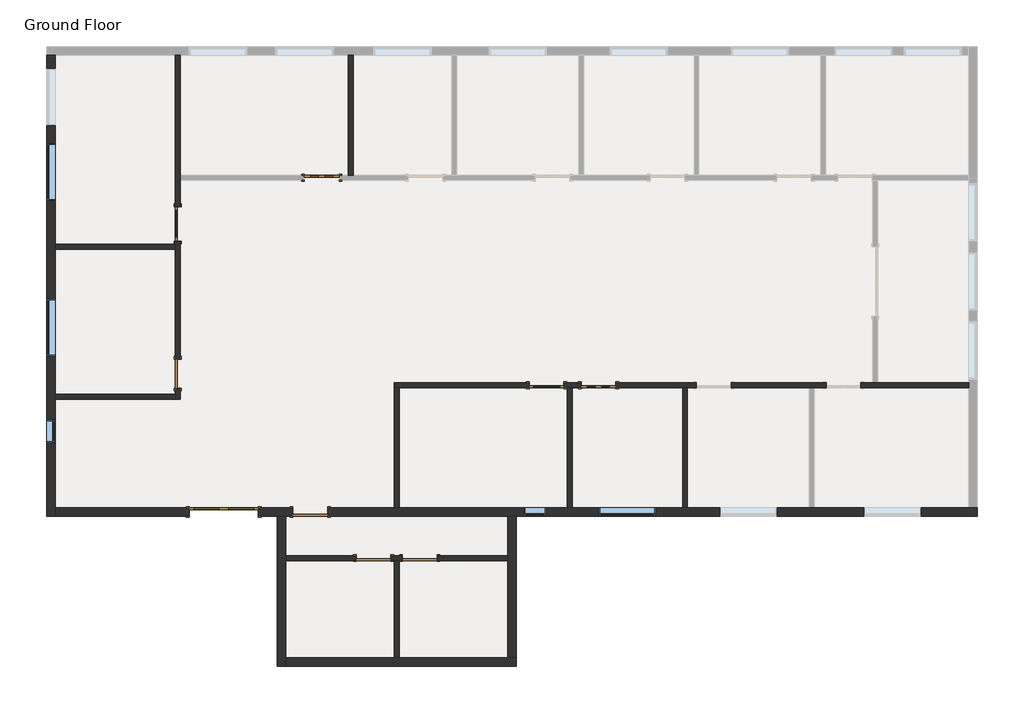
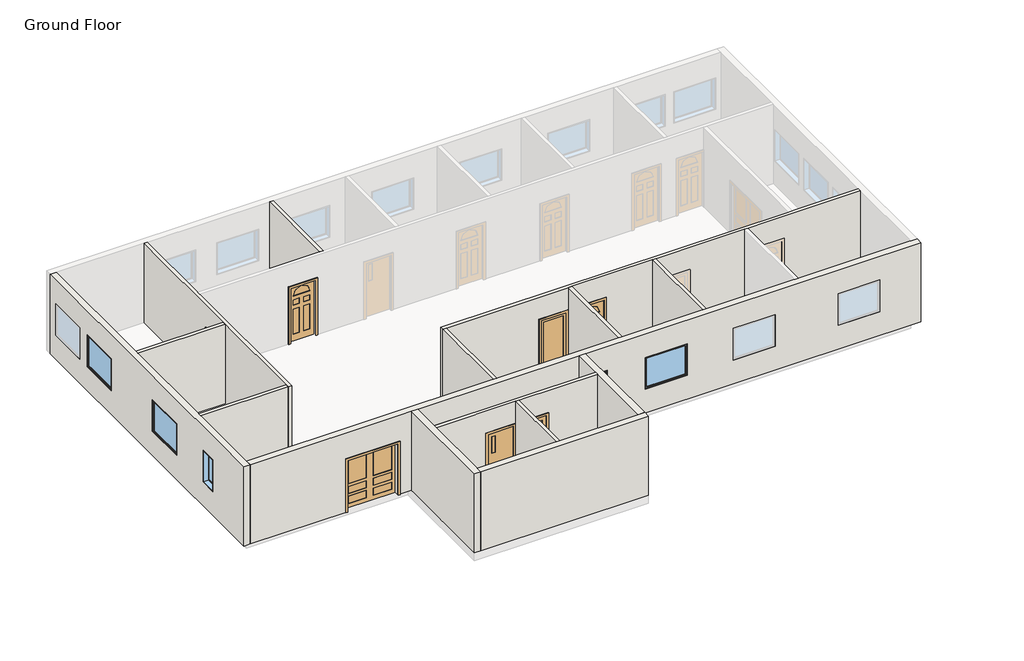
# One storey, part 1 of 2: 15 walls, 9 doors, 5 windows.
"""IFC4 building model written with IfcOpenShell, lengths in millimetres."""

from ifc_helpers import new_model, si_unit, origin, origin_with_axes, place, context, project, spatial, polyline, outline, extrude, faceted_brep, transform, mapped, element, save
from components import door_5adec8b9, door_2e3b4da2, door_e36758a9, door_e12cc5d4, door_a570ce24, door_98659c12, door_df34b78b, window_c82808a1, fixed_60_x_48_145d3b12

model = new_model("IFC4")

# Units and contexts
model_context = context("Model", 3, world=origin())
ifc_project = project(units=[si_unit("LENGTHUNIT", "METRE", prefix="MILLI")], contexts=[model_context])

# Site, building, storey
site = spatial("IfcSite", under=ifc_project)
building = spatial("IfcBuilding", under=site)
storey = spatial("IfcBuildingStorey", under=building, Name="Ground Floor", Elevation=0.0)

# Doors
placement = place(None, origin())
door_shape = door_5adec8b9(model_context)
element("IfcDoor", 1, ObjectType="Double-Panel 1 : 72\" x 78\"", at=placement, inside=storey, context=model_context, shape_type="MappedRepresentation", body=[
    mapped(door_shape, transform((-13229.3393951, -10747.2833183, 0.0), x_axis=(1.0, 0.0, 0.0), y_axis=(0.0, 1.0, 0.0), z_axis=(0.0, 0.0, 1.0))),
])
door_2_shape = door_2e3b4da2(model_context)
element("IfcDoor", 2, ObjectType="Single-Decorative 2 : 36\" x 84\"", at=placement, inside=storey, context=model_context, shape_type="MappedRepresentation", body=[
    mapped(door_2_shape, transform((-10638.5393951, -1908.0833183, 0.0), x_axis=(1.0, 0.0, 0.0), y_axis=(0.0, 1.0, 0.0), z_axis=(0.0, 0.0, 1.0))),
])
element("IfcDoor", 3, ObjectType="Single-Decorative 2 : 36\" x 84\"", at=placement, inside=storey, context=model_context, shape_type="MappedRepresentation", body=[
    mapped(door_2_shape, transform((-3323.3393951, -7394.4833183, 0.0), x_axis=(-1.0, 0.0, 0.0), y_axis=(0.0, -1.0, 0.0), z_axis=(0.0, 0.0, 1.0))),
])
door_3_shape = door_e36758a9(model_context)
element("IfcDoor", 4, ObjectType="Single-Flush : 30\" x 84\"", at=placement, inside=storey, context=model_context, shape_type="MappedRepresentation", body=[
    mapped(door_3_shape, transform((-14448.5393951, -7089.6833183, 0.0), x_axis=(0.0, -1.0, 0.0), y_axis=(1.0, 0.0, 0.0), z_axis=(0.0, 0.0, 1.0))),
])
door_4_shape = door_e12cc5d4(model_context)
element("IfcDoor", 5, ObjectType="Single-Flush Vision : 36\" x 84\"", at=placement, inside=storey, context=model_context, shape_type="MappedRepresentation", body=[
    mapped(door_4_shape, transform((-8047.7393951, -11966.4833183, 0.0), x_axis=(-1.0, 0.0, 0.0), y_axis=(0.0, -1.0, 0.0), z_axis=(0.0, 0.0, 1.0))),
])
door_5_shape = door_a570ce24(model_context)
element("IfcDoor", 6, ObjectType="Single-Flush Vision : 36\" x 84\"", at=placement, inside=storey, context=model_context, shape_type="MappedRepresentation", body=[
    mapped(door_5_shape, transform((-10943.3393951, -10747.2833183, 0.0), x_axis=(-1.0, 0.0, 0.0), y_axis=(0.0, -1.0, 0.0), z_axis=(0.0, 0.0, 1.0))),
])
door_6_shape = door_98659c12(model_context)
element("IfcDoor", 7, ObjectType="Single-Flush Vision : 36\" x 84\"", at=placement, inside=storey, context=model_context, shape_type="MappedRepresentation", body=[
    mapped(door_6_shape, transform((-9266.9393951, -11966.4833183, 0.0), x_axis=(1.0, 0.0, 0.0), y_axis=(0.0, 1.0, 0.0), z_axis=(0.0, 0.0, 1.0))),
])
door_7_shape = door_df34b78b(model_context)
element("IfcDoor", 8, ObjectType="Single-Glass 1 : 36\" x 84\"", at=placement, inside=storey, context=model_context, shape_type="MappedRepresentation", body=[
    mapped(door_7_shape, transform((-14448.5393951, -3127.2833183, 0.0), x_axis=(0.0, -1.0, 0.0), y_axis=(1.0, 0.0, 0.0), z_axis=(0.0, 0.0, 1.0))),
])
element("IfcDoor", 9, ObjectType="Single-Glass 1 : 36\" x 84\"", at=placement, inside=storey, context=model_context, shape_type="MappedRepresentation", body=[
    mapped(door_7_shape, transform((-4694.9393951, -7394.4833183, 0.0), x_axis=(1.0, 0.0, 0.0), y_axis=(0.0, 1.0, 0.0), z_axis=(0.0, 0.0, 1.0))),
])

# Walls
element("IfcWall", 10, ObjectType="Generic - 5\"", at=placement, inside=storey, context=model_context, shape_type="Brep", body=[
    faceted_brep([(-14512.0393951, -3584.4833183, 2133.6), (-14512.0393951, -3584.4833183, 0.0), (-14512.0393951, -3673.3833183, 0.0), (-14512.0393951, -3800.3833183, 0.0), (-14512.0393951, -6708.6833183, 0.0), (-14512.0393951, -6708.6833183, 2133.6), (-14512.0393951, -7470.6833183, 2133.6), (-14512.0393951, -7470.6833183, 0.0), (-14512.0393951, -7635.7833183, 0.0), (-14512.0393951, -7762.7833183, 0.0), (-14512.0393951, -7762.7833183, 3048.0), (-14512.0393951, -7635.7833183, 3048.0), (-14512.0393951, -3800.3833183, 3048.0), (-14512.0393951, -3673.3833183, 3048.0), (-14512.0393951, 1330.4166817, 3048.0), (-14512.0393951, 1330.4166817, 0.0), (-14512.0393951, -2670.0833183, 0.0), (-14512.0393951, -2670.0833183, 2133.6), (-14385.0393951, -6708.6833183, 0.0), (-14385.0393951, -3584.4833183, 0.0), (-14385.0393951, -3584.4833183, 2133.6), (-14385.0393951, -2670.0833183, 2133.6), (-14385.0393951, -2670.0833183, 0.0), (-14385.0393951, -1971.5833183, 0.0), (-14385.0393951, -1844.5833183, 0.0), (-14385.0393951, 1330.4166817, 0.0), (-14385.0393951, 1330.4166817, 3048.0), (-14385.0393951, -1844.5833183, 3048.0), (-14385.0393951, -1971.5833183, 3048.0), (-14385.0393951, -7762.7833183, 3048.0), (-14385.0393951, -7762.7833183, 0.0), (-14385.0393951, -7470.6833183, 0.0), (-14385.0393951, -7470.6833183, 2133.6), (-14385.0393951, -6708.6833183, 2133.6)], [[[0, 1, 2, 3, 4, 5, 6, 7, 8, 9, 10, 11, 12, 13, 14, 15, 16, 17]], [[18, 19, 20, 21, 22, 23, 24, 25, 26, 27, 28, 29, 30, 31, 32, 33]], [[9, 8, 7, 31, 30]], [[16, 15, 25, 24, 23, 22]], [[4, 3, 2, 1, 19, 18]], [[14, 13, 12, 11, 10, 29, 28, 27, 26]], [[15, 14, 26, 25]], [[10, 9, 30, 29]], [[32, 31, 7, 6]], [[33, 32, 6, 5]], [[18, 33, 5, 4]], [[20, 19, 1, 0]], [[21, 20, 0, 17]], [[22, 21, 17, 16]]]),
])
element("IfcWall", 11, ObjectType="Generic - 5\"", at=placement, inside=storey, context=model_context, shape_type="SweptSolid", body=[
    extrude(outline(polyline([(-17687.0393951, -7635.7833183), (-14512.0393951, -7635.7833183), (-14512.0393951, -7762.7833183), (-17687.0393951, -7762.7833183), (-17687.0393951, -7635.7833183)])), origin_with_axes(), (0.0, 0.0, 1.0), 3048.0),
])
element("IfcWall", 12, ObjectType="Generic - 5\"", at=placement, inside=storey, context=model_context, shape_type="Brep", body=[
    faceted_brep([(-3780.5393951, -7330.9833183, 0.0), (-4237.7393951, -7330.9833183, 0.0), (-4237.7393951, -7330.9833183, 2133.6), (-5152.1393951, -7330.9833183, 2133.6), (-5152.1393951, -7330.9833183, 0.0), (-8720.8393951, -7330.9833183, 0.0), (-8720.8393951, -7330.9833183, 3048.0), (3928.3606049, -7330.9833183, 3048.0), (4055.3606049, -7330.9833183, 3048.0), (6468.3606049, -7330.9833183, 3048.0), (6468.3606049, -7330.9833183, 0.0), (4055.3606049, -7330.9833183, 0.0), (3928.3606049, -7330.9833183, 0.0), (3610.8606049, -7330.9833183, 0.0), (3610.8606049, -7330.9833183, 2133.6), (2696.4606049, -7330.9833183, 2133.6), (2696.4606049, -7330.9833183, 0.0), (181.8606049, -7330.9833183, 0.0), (181.8606049, -7330.9833183, 2133.6), (-732.5393951, -7330.9833183, 2133.6), (-732.5393951, -7330.9833183, 0.0), (-2866.1393951, -7330.9833183, 0.0), (-2866.1393951, -7330.9833183, 2133.6), (-3780.5393951, -7330.9833183, 2133.6), (-4237.7393951, -7457.9833183, 2133.6), (-4237.7393951, -7457.9833183, 0.0), (-4148.8393951, -7457.9833183, 0.0), (-4021.8393951, -7457.9833183, 0.0), (-3780.5393951, -7457.9833183, 0.0), (-3780.5393951, -7457.9833183, 2133.6), (-2866.1393951, -7457.9833183, 2133.6), (-2866.1393951, -7457.9833183, 0.0), (-1100.8393951, -7457.9833183, 0.0), (-973.8393951, -7457.9833183, 0.0), (-732.5393951, -7457.9833183, 0.0), (-732.5393951, -7457.9833183, 2133.6), (181.8606049, -7457.9833183, 2133.6), (181.8606049, -7457.9833183, 0.0), (2251.9606049, -7457.9833183, 0.0), (2378.9606049, -7457.9833183, 0.0), (2696.4606049, -7457.9833183, 0.0), (2696.4606049, -7457.9833183, 2133.6), (3610.8606049, -7457.9833183, 2133.6), (3610.8606049, -7457.9833183, 0.0), (6468.3606049, -7457.9833183, 0.0), (6468.3606049, -7457.9833183, 3048.0), (2378.9606049, -7457.9833183, 3048.0), (2251.9606049, -7457.9833183, 3048.0), (-973.8393951, -7457.9833183, 3048.0), (-1100.8393951, -7457.9833183, 3048.0), (-4021.8393951, -7457.9833183, 3048.0), (-4148.8393951, -7457.9833183, 3048.0), (-8593.8393951, -7457.9833183, 3048.0), (-8720.8393951, -7457.9833183, 3048.0), (-8720.8393951, -7457.9833183, 0.0), (-8593.8393951, -7457.9833183, 0.0), (-5152.1393951, -7457.9833183, 0.0), (-5152.1393951, -7457.9833183, 2133.6)], [[[0, 1, 2, 3, 4, 5, 6, 7, 8, 9, 10, 11, 12, 13, 14, 15, 16, 17, 18, 19, 20, 21, 22, 23]], [[24, 25, 26, 27, 28, 29, 30, 31, 32, 33, 34, 35, 36, 37, 38, 39, 40, 41, 42, 43, 44, 45, 46, 47, 48, 49, 50, 51, 52, 53, 54, 55, 56, 57]], [[17, 16, 40, 39, 38, 37]], [[13, 12, 11, 10, 44, 43]], [[21, 20, 34, 33, 32, 31]], [[56, 55, 54, 5, 4]], [[28, 27, 26, 25, 1, 0]], [[9, 8, 7, 6, 53, 52, 51, 50, 49, 48, 47, 46, 45]], [[10, 9, 45, 44]], [[6, 5, 54, 53]], [[35, 34, 20, 19]], [[36, 35, 19, 18]], [[37, 36, 18, 17]], [[41, 40, 16, 15]], [[42, 41, 15, 14]], [[43, 42, 14, 13]], [[29, 28, 0, 23]], [[30, 29, 23, 22]], [[31, 30, 22, 21]], [[2, 1, 25, 24]], [[3, 2, 24, 57]], [[4, 3, 57, 56]]]),
])
element("IfcWall", 13, ObjectType="Generic - 5\"", at=placement, inside=storey, context=model_context, shape_type="SweptSolid", body=[
    extrude(outline(polyline([(-8720.8393951, -10632.9833183), (-8720.8393951, -7457.9833183), (-8593.8393951, -7457.9833183), (-8593.8393951, -10632.9833183), (-8720.8393951, -10632.9833183)])), origin_with_axes(), (0.0, 0.0, 1.0), 3048.0),
])
element("IfcWall", 14, ObjectType="Generic - 5\"", at=placement, inside=storey, context=model_context, shape_type="SweptSolid", body=[
    extrude(outline(polyline([(-14512.0393951, -3800.3833183), (-17687.0393951, -3800.3833183), (-17687.0393951, -3673.3833183), (-14512.0393951, -3673.3833183), (-14512.0393951, -3800.3833183)])), origin_with_axes(), (0.0, 0.0, 1.0), 3048.0),
])
element("IfcWall", 15, ObjectType="Generic - 5\"", at=placement, inside=storey, context=model_context, shape_type="SweptSolid", body=[
    extrude(outline(polyline([(-9940.0393951, -1844.5833183), (-9940.0393951, 1330.4166817), (-9813.0393951, 1330.4166817), (-9813.0393951, -1844.5833183), (-9940.0393951, -1844.5833183)])), origin_with_axes(), (0.0, 0.0, 1.0), 3048.0),
])
element("IfcWall", 16, ObjectType="Generic - 5\"", at=placement, inside=storey, context=model_context, shape_type="SweptSolid", body=[
    extrude(outline(polyline([(-973.8393951, -7457.9833183), (-973.8393951, -10632.9833183), (-1100.8393951, -10632.9833183), (-1100.8393951, -7457.9833183), (-973.8393951, -7457.9833183)])), origin_with_axes(), (0.0, 0.0, 1.0), 3048.0),
])
element("IfcWall", 17, ObjectType="Generic - 5\"", at=placement, inside=storey, context=model_context, shape_type="SweptSolid", body=[
    extrude(outline(polyline([(-4021.8393951, -7457.9833183), (-4021.8393951, -10632.9833183), (-4148.8393951, -10632.9833183), (-4148.8393951, -7457.9833183), (-4021.8393951, -7457.9833183)])), origin_with_axes(), (0.0, 0.0, 1.0), 3048.0),
])
element("IfcWall", 18, ObjectType="Generic - 5\"", at=placement, inside=storey, context=model_context, shape_type="Brep", body=[
    faceted_brep([(-8809.7393951, -12029.9833183, 2133.6), (-8809.7393951, -12029.9833183, 0.0), (-8720.8393951, -12029.9833183, 0.0), (-8593.8393951, -12029.9833183, 0.0), (-8504.9393951, -12029.9833183, 0.0), (-8504.9393951, -12029.9833183, 2133.6), (-7590.5393951, -12029.9833183, 2133.6), (-7590.5393951, -12029.9833183, 0.0), (-5723.6393951, -12029.9833183, 0.0), (-5723.6393951, -12029.9833183, 3048.0), (-8593.8393951, -12029.9833183, 3048.0), (-8720.8393951, -12029.9833183, 3048.0), (-11591.0393951, -12029.9833183, 3048.0), (-11591.0393951, -12029.9833183, 0.0), (-9724.1393951, -12029.9833183, 0.0), (-9724.1393951, -12029.9833183, 2133.6), (-8504.9393951, -11902.9833183, 0.0), (-8809.7393951, -11902.9833183, 0.0), (-8809.7393951, -11902.9833183, 2133.6), (-9724.1393951, -11902.9833183, 2133.6), (-9724.1393951, -11902.9833183, 0.0), (-11591.0393951, -11902.9833183, 0.0), (-11591.0393951, -11902.9833183, 3048.0), (-5723.6393951, -11902.9833183, 3048.0), (-5723.6393951, -11902.9833183, 0.0), (-7590.5393951, -11902.9833183, 0.0), (-7590.5393951, -11902.9833183, 2133.6), (-8504.9393951, -11902.9833183, 2133.6)], [[[0, 1, 2, 3, 4, 5, 6, 7, 8, 9, 10, 11, 12, 13, 14, 15]], [[16, 17, 18, 19, 20, 21, 22, 23, 24, 25, 26, 27]], [[25, 24, 8, 7]], [[14, 13, 21, 20]], [[4, 3, 2, 1, 17, 16]], [[12, 11, 10, 9, 23, 22]], [[13, 12, 22, 21]], [[9, 8, 24, 23]], [[5, 4, 16, 27]], [[6, 5, 27, 26]], [[7, 6, 26, 25]], [[18, 17, 1, 0]], [[19, 18, 0, 15]], [[20, 19, 15, 14]]]),
])
element("IfcWall", 19, ObjectType="Generic - 5\"", at=placement, inside=storey, context=model_context, shape_type="SweptSolid", body=[
    extrude(outline(polyline([(-8720.8393951, -14595.3833183), (-8720.8393951, -12029.9833183), (-8593.8393951, -12029.9833183), (-8593.8393951, -14595.3833183), (-8720.8393951, -14595.3833183)])), origin_with_axes(), (0.0, 0.0, 1.0), 3048.0),
])
element("IfcWall", 20, ObjectType="Generic- 9\"", at=placement, inside=storey, context=model_context, shape_type="Brep", body=[
    faceted_brep([(-17687.0393951, -10861.5833183, 0.0), (-17687.0393951, -10632.9833183, 0.0), (-17687.0393951, -7762.7833183, 0.0), (-17687.0393951, -7635.7833183, 0.0), (-17687.0393951, -3800.3833183, 0.0), (-17687.0393951, -3673.3833183, 0.0), (-17687.0393951, 1330.4166817, 0.0), (-17687.0393951, 1330.4166817, 3048.0), (-17687.0393951, -3673.3833183, 3048.0), (-17687.0393951, -3800.3833183, 3048.0), (-17687.0393951, -7635.7833183, 3048.0), (-17687.0393951, -7762.7833183, 3048.0), (-17687.0393951, -10632.9833183, 3048.0), (-17687.0393951, -10861.5833183, 3048.0), (-17687.0393951, -8918.4833183, 2133.6), (-17687.0393951, -8308.8833183, 2133.6), (-17687.0393951, -8308.8833183, 914.4), (-17687.0393951, -8918.4833183, 914.4), (-17687.0393951, -5108.4833183, 2133.6), (-17687.0393951, -5108.4833183, 914.4), (-17687.0393951, -6632.4833183, 914.4), (-17687.0393951, -6632.4833183, 2133.6), (-17687.0393951, -993.6833183, 2133.6), (-17687.0393951, -993.6833183, 914.4), (-17687.0393951, -2517.6833183, 914.4), (-17687.0393951, -2517.6833183, 2133.6), (-17687.0393951, 987.5166817, 2133.6), (-17687.0393951, 987.5166817, 914.4), (-17687.0393951, -536.4833183, 914.4), (-17687.0393951, -536.4833183, 2133.6), (-17915.6393951, -10861.5833183, 0.0), (-17915.6393951, -10861.5833183, 3048.0), (-17915.6393951, 1330.4166817, 3048.0), (-17915.6393951, 1330.4166817, 0.0), (-17915.6393951, -8918.4833183, 2133.6), (-17915.6393951, -8918.4833183, 914.4), (-17915.6393951, -8308.8833183, 914.4), (-17915.6393951, -8308.8833183, 2133.6), (-17915.6393951, -5108.4833183, 2133.6), (-17915.6393951, -6632.4833183, 2133.6), (-17915.6393951, -6632.4833183, 914.4), (-17915.6393951, -5108.4833183, 914.4), (-17915.6393951, -993.6833183, 2133.6), (-17915.6393951, -2517.6833183, 2133.6), (-17915.6393951, -2517.6833183, 914.4), (-17915.6393951, -993.6833183, 914.4), (-17915.6393951, 987.5166817, 2133.6), (-17915.6393951, -536.4833183, 2133.6), (-17915.6393951, -536.4833183, 914.4), (-17915.6393951, 987.5166817, 914.4)], [[[0, 1, 2, 3, 4, 5, 6, 7, 8, 9, 10, 11, 12, 13], [14, 15, 16, 17], [18, 19, 20, 21], [22, 23, 24, 25], [26, 27, 28, 29]], [[30, 31, 32, 33], [34, 35, 36, 37], [38, 39, 40, 41], [42, 43, 44, 45], [46, 47, 48, 49]], [[6, 5, 4, 3, 2, 1, 0, 30, 33]], [[13, 12, 11, 10, 9, 8, 7, 32, 31]], [[0, 13, 31, 30]], [[7, 6, 33, 32]], [[35, 34, 14, 17]], [[36, 35, 17, 16]], [[37, 36, 16, 15]], [[34, 37, 15, 14]], [[19, 18, 38, 41]], [[20, 19, 41, 40]], [[21, 20, 40, 39]], [[18, 21, 39, 38]], [[23, 22, 42, 45]], [[24, 23, 45, 44]], [[25, 24, 44, 43]], [[22, 25, 43, 42]], [[27, 26, 46, 49]], [[28, 27, 49, 48]], [[29, 28, 48, 47]], [[26, 29, 47, 46]]]),
])
element("IfcWall", 21, ObjectType="Generic- 9\"", at=placement, inside=storey, context=model_context, shape_type="Brep", body=[
    faceted_brep([(-11400.5393951, -10632.9833183, 2133.6), (-11400.5393951, -10632.9833183, 0.0), (-12314.9393951, -10632.9833183, 0.0), (-12314.9393951, -10632.9833183, 1981.2), (-14143.7393951, -10632.9833183, 1981.2), (-14143.7393951, -10632.9833183, 0.0), (-17687.0393951, -10632.9833183, 0.0), (-17687.0393951, -10632.9833183, 3048.0), (-8720.8393951, -10632.9833183, 3048.0), (-8593.8393951, -10632.9833183, 3048.0), (-4148.8393951, -10632.9833183, 3048.0), (-4021.8393951, -10632.9833183, 3048.0), (-1100.8393951, -10632.9833183, 3048.0), (-973.8393951, -10632.9833183, 3048.0), (2251.9606049, -10632.9833183, 3048.0), (2378.9606049, -10632.9833183, 3048.0), (6468.3606049, -10632.9833183, 3048.0), (6696.9606049, -10632.9833183, 3048.0), (6696.9606049, -10632.9833183, 0.0), (6468.3606049, -10632.9833183, 0.0), (2378.9606049, -10632.9833183, 0.0), (2251.9606049, -10632.9833183, 0.0), (-973.8393951, -10632.9833183, 0.0), (-1100.8393951, -10632.9833183, 0.0), (-4021.8393951, -10632.9833183, 0.0), (-4148.8393951, -10632.9833183, 0.0), (-8593.8393951, -10632.9833183, 0.0), (-8720.8393951, -10632.9833183, 0.0), (-10486.1393951, -10632.9833183, 0.0), (-10486.1393951, -10632.9833183, 2133.6), (-5304.5393951, -10632.9833183, 2133.6), (-5304.5393951, -10632.9833183, 914.4), (-4694.9393951, -10632.9833183, 914.4), (-4694.9393951, -10632.9833183, 2133.6), (3687.0606049, -10632.9833183, 2133.6), (3687.0606049, -10632.9833183, 914.4), (5211.0606049, -10632.9833183, 914.4), (5211.0606049, -10632.9833183, 2133.6), (-122.9393951, -10632.9833183, 2133.6), (-122.9393951, -10632.9833183, 914.4), (1401.0606049, -10632.9833183, 914.4), (1401.0606049, -10632.9833183, 2133.6), (-3323.3393951, -10632.9833183, 2133.6), (-3323.3393951, -10632.9833183, 914.4), (-1799.3393951, -10632.9833183, 914.4), (-1799.3393951, -10632.9833183, 2133.6), (-12314.9393951, -10861.5833183, 0.0), (-11819.6393951, -10861.5833183, 0.0), (-11591.0393951, -10861.5833183, 0.0), (-11400.5393951, -10861.5833183, 0.0), (-11400.5393951, -10861.5833183, 2133.6), (-10486.1393951, -10861.5833183, 2133.6), (-10486.1393951, -10861.5833183, 0.0), (-5723.6393951, -10861.5833183, 0.0), (-5495.0393951, -10861.5833183, 0.0), (6696.9606049, -10861.5833183, 0.0), (6696.9606049, -10861.5833183, 3048.0), (-5495.0393951, -10861.5833183, 3048.0), (-5723.6393951, -10861.5833183, 3048.0), (-11591.0393951, -10861.5833183, 3048.0), (-11819.6393951, -10861.5833183, 3048.0), (-17687.0393951, -10861.5833183, 3048.0), (-17687.0393951, -10861.5833183, 0.0), (-14143.7393951, -10861.5833183, 0.0), (-14143.7393951, -10861.5833183, 1981.2), (-12314.9393951, -10861.5833183, 1981.2), (-5304.5393951, -10861.5833183, 2133.6), (-4694.9393951, -10861.5833183, 2133.6), (-4694.9393951, -10861.5833183, 914.4), (-5304.5393951, -10861.5833183, 914.4), (3687.0606049, -10861.5833183, 2133.6), (5211.0606049, -10861.5833183, 2133.6), (5211.0606049, -10861.5833183, 914.4), (3687.0606049, -10861.5833183, 914.4), (-122.9393951, -10861.5833183, 2133.6), (1401.0606049, -10861.5833183, 2133.6), (1401.0606049, -10861.5833183, 914.4), (-122.9393951, -10861.5833183, 914.4), (-3323.3393951, -10861.5833183, 2133.6), (-1799.3393951, -10861.5833183, 2133.6), (-1799.3393951, -10861.5833183, 914.4), (-3323.3393951, -10861.5833183, 914.4)], [[[0, 1, 2, 3, 4, 5, 6, 7, 8, 9, 10, 11, 12, 13, 14, 15, 16, 17, 18, 19, 20, 21, 22, 23, 24, 25, 26, 27, 28, 29], [30, 31, 32, 33], [34, 35, 36, 37], [38, 39, 40, 41], [42, 43, 44, 45]], [[46, 47, 48, 49, 50, 51, 52, 53, 54, 55, 56, 57, 58, 59, 60, 61, 62, 63, 64, 65], [66, 67, 68, 69], [70, 71, 72, 73], [74, 75, 76, 77], [78, 79, 80, 81]], [[62, 6, 5, 63]], [[2, 1, 49, 48, 47, 46]], [[28, 27, 26, 25, 24, 23, 22, 21, 20, 19, 18, 55, 54, 53, 52]], [[17, 16, 15, 14, 13, 12, 11, 10, 9, 8, 7, 61, 60, 59, 58, 57, 56]], [[18, 17, 56, 55]], [[7, 6, 62, 61]], [[65, 3, 2, 46]], [[3, 65, 64, 4]], [[4, 64, 63, 5]], [[50, 49, 1, 0]], [[51, 50, 0, 29]], [[52, 51, 29, 28]], [[31, 30, 66, 69]], [[32, 31, 69, 68]], [[33, 32, 68, 67]], [[30, 33, 67, 66]], [[35, 34, 70, 73]], [[36, 35, 73, 72]], [[37, 36, 72, 71]], [[34, 37, 71, 70]], [[39, 38, 74, 77]], [[40, 39, 77, 76]], [[41, 40, 76, 75]], [[38, 41, 75, 74]], [[43, 42, 78, 81]], [[44, 43, 81, 80]], [[45, 44, 80, 79]], [[42, 45, 79, 78]]]),
])
element("IfcWall", 22, ObjectType="Generic- 9\"", at=placement, inside=storey, context=model_context, shape_type="Brep", body=[
    faceted_brep([(-11819.6393951, -10861.5833183, 0.0), (-11819.6393951, -14823.9833183, 0.0), (-11819.6393951, -14823.9833183, 3048.0), (-11819.6393951, -10861.5833183, 3048.0), (-11591.0393951, -10861.5833183, 0.0), (-11591.0393951, -10861.5833183, 3048.0), (-11591.0393951, -11902.9833183, 3048.0), (-11591.0393951, -12029.9833183, 3048.0), (-11591.0393951, -14595.3833183, 3048.0), (-11591.0393951, -14823.9833183, 3048.0), (-11591.0393951, -14823.9833183, 0.0), (-11591.0393951, -14595.3833183, 0.0), (-11591.0393951, -12029.9833183, 0.0), (-11591.0393951, -11902.9833183, 0.0)], [[[0, 1, 2, 3]], [[4, 5, 6, 7, 8, 9, 10, 11, 12, 13]], [[1, 0, 4, 13, 12, 11, 10]], [[3, 2, 9, 8, 7, 6, 5]], [[0, 3, 5, 4]], [[2, 1, 10, 9]]]),
])
element("IfcWall", 23, ObjectType="Generic- 9\"", at=placement, inside=storey, context=model_context, shape_type="Brep", body=[
    faceted_brep([(-11591.0393951, -14823.9833183, 0.0), (-5495.0393951, -14823.9833183, 0.0), (-5495.0393951, -14823.9833183, 3048.0), (-11591.0393951, -14823.9833183, 3048.0), (-11591.0393951, -14595.3833183, 0.0), (-11591.0393951, -14595.3833183, 3048.0), (-8720.8393951, -14595.3833183, 3048.0), (-8593.8393951, -14595.3833183, 3048.0), (-5723.6393951, -14595.3833183, 3048.0), (-5495.0393951, -14595.3833183, 3048.0), (-5495.0393951, -14595.3833183, 0.0), (-5723.6393951, -14595.3833183, 0.0), (-8593.8393951, -14595.3833183, 0.0), (-8720.8393951, -14595.3833183, 0.0)], [[[0, 1, 2, 3]], [[4, 5, 6, 7, 8, 9, 10, 11, 12, 13]], [[1, 0, 4, 13, 12, 11, 10]], [[3, 2, 9, 8, 7, 6, 5]], [[0, 3, 5, 4]], [[2, 1, 10, 9]]]),
])
element("IfcWall", 24, ObjectType="Generic- 9\"", at=placement, inside=storey, context=model_context, shape_type="Brep", body=[
    faceted_brep([(-5495.0393951, -14595.3833183, 0.0), (-5495.0393951, -10861.5833183, 0.0), (-5495.0393951, -10861.5833183, 3048.0), (-5495.0393951, -14595.3833183, 3048.0), (-5723.6393951, -14595.3833183, 0.0), (-5723.6393951, -14595.3833183, 3048.0), (-5723.6393951, -12029.9833183, 3048.0), (-5723.6393951, -11902.9833183, 3048.0), (-5723.6393951, -10861.5833183, 3048.0), (-5723.6393951, -10861.5833183, 0.0), (-5723.6393951, -11902.9833183, 0.0), (-5723.6393951, -12029.9833183, 0.0)], [[[0, 1, 2, 3]], [[4, 5, 6, 7, 8, 9, 10, 11]], [[1, 0, 4, 11, 10, 9]], [[3, 2, 8, 7, 6, 5]], [[0, 3, 5, 4]], [[2, 1, 9, 8]]]),
])

# Windows
window_shape = window_c82808a1(model_context)
element("IfcWindow", 25, ObjectType="Fixed : 24\" x 48\"", at=placement, inside=storey, context=model_context, shape_type="MappedRepresentation", body=[
    mapped(window_shape, transform((-17801.3393951, -8651.7833183, 0.0), x_axis=(0.0, -1.0, 0.0), y_axis=(1.0, 0.0, 0.0), z_axis=(0.0, 0.0, 1.0))),
])
element("IfcWindow", 26, ObjectType="Fixed : 24\" x 48\"", at=placement, inside=storey, context=model_context, shape_type="MappedRepresentation", body=[
    mapped(window_shape, transform((-5037.8393951, -10747.2833183, 0.0), x_axis=(-1.0, 0.0, 0.0), y_axis=(0.0, -1.0, 0.0), z_axis=(0.0, 0.0, 1.0))),
])
fixed_60_x_48_shape = fixed_60_x_48_145d3b12(model_context)
element("IfcWindow", 27, ObjectType="Fixed : 60' x 48'", at=placement, inside=storey, context=model_context, shape_type="MappedRepresentation", body=[
    mapped(fixed_60_x_48_shape, transform((-17801.3393951, -5832.3833183, 0.0), x_axis=(0.0, 1.0, 0.0), y_axis=(-1.0, 0.0, 0.0), z_axis=(0.0, 0.0, 1.0))),
])
element("IfcWindow", 28, ObjectType="Fixed : 60' x 48'", at=placement, inside=storey, context=model_context, shape_type="MappedRepresentation", body=[
    mapped(fixed_60_x_48_shape, transform((-17801.3393951, -1717.5833183, 0.0), x_axis=(0.0, 1.0, 0.0), y_axis=(-1.0, 0.0, 0.0), z_axis=(0.0, 0.0, 1.0))),
])
element("IfcWindow", 29, ObjectType="Fixed : 60' x 48'", at=placement, inside=storey, context=model_context, shape_type="MappedRepresentation", body=[
    mapped(fixed_60_x_48_shape, transform((-2599.4393951, -10747.2833183, 0.0), x_axis=(-1.0, 0.0, 0.0), y_axis=(0.0, -1.0, 0.0), z_axis=(0.0, 0.0, 1.0))),
])

save(model, "model.ifc")
